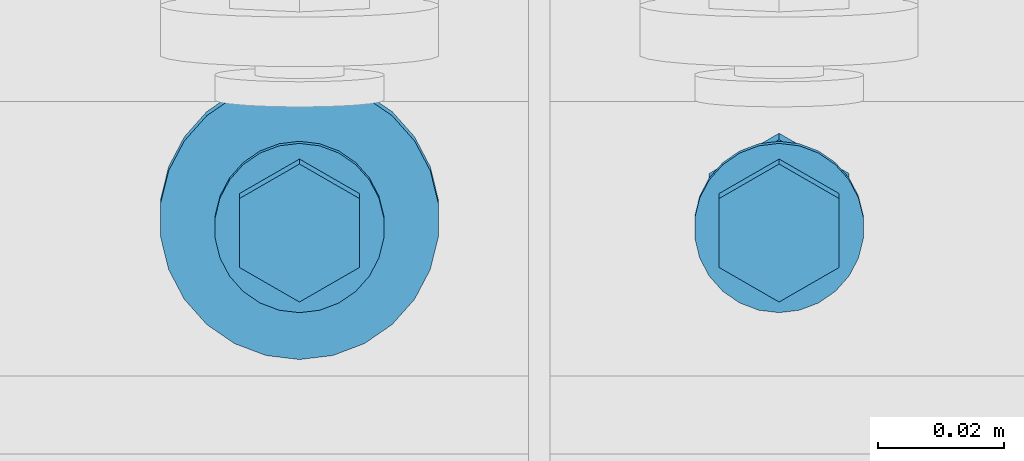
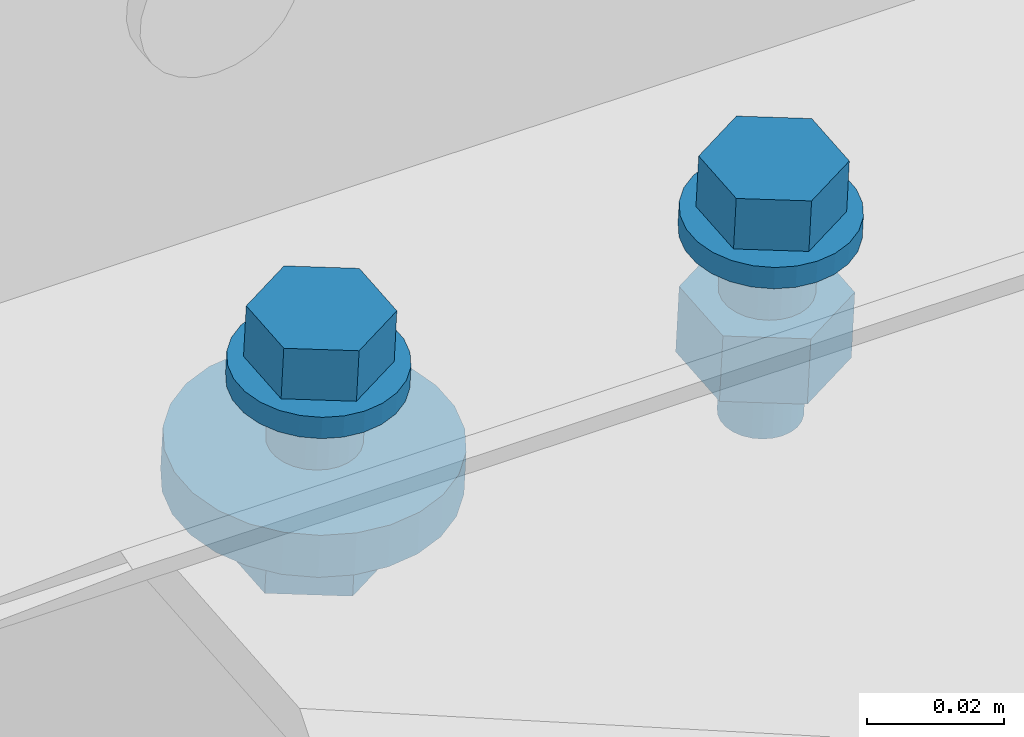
# One storey, part 124 of 185: 2 mechanical fasteners, 1 element without a shape of its own.
"""IFC2X3 building model written with IfcOpenShell, lengths in millimetres."""

import ifcopenshell
import ifcopenshell.guid

model = None  # the IFC model being written
_history = None  # IfcOwnerHistory: only IFC2X3 demands one
_inside = {}  # id of a spatial element -> (the spatial element, [elements in it])
_under = {}  # id of a project, library or spatial element -> (it, [spatial elements below it])
_declared = {}  # id of a project -> (the project, [libraries it declares])
_typed = {}  # id of a type object -> (the type object, [elements of that type])
_made_of = {}  # id of a material, layer set ... -> (it, [elements and type objects made of it])


def new_model(schema):
    """Start an empty IFC model of exactly this schema.

    Asked for "IFC4X3", IfcOpenShell would pick the latest addendum, in which some entities
    have other attributes; the version numbers below select the first issue.
    IFC2X3 requires an IfcOwnerHistory on every rooted entity: one is made here for all.
    """
    global model, _history
    if schema == "IFC4X3":
        model = ifcopenshell.file(schema_version=(4, 3, 0, 0))
    else:
        model = ifcopenshell.file(schema=schema)
    _inside.clear()
    _under.clear()
    _declared.clear()
    _typed.clear()
    _made_of.clear()
    _history = None
    if model.schema == "IFC2X3":
        org = make("IfcOrganization", Name="unknown")
        user = make(
            "IfcPersonAndOrganization",
            ThePerson=make("IfcPerson", FamilyName="unknown"),
            TheOrganization=org,
        )
        app = make(
            "IfcApplication",
            ApplicationDeveloper=org,
            Version="unknown",
            ApplicationFullName="unknown",
            ApplicationIdentifier="unknown",
        )
        _history = make(
            "IfcOwnerHistory",
            OwningUser=user,
            OwningApplication=app,
            ChangeAction="ADDED",
            CreationDate=0,
        )
    return model


def make(cls, **values):
    """One entity of the class cls with the attributes given. An attribute that is None is left unset."""
    return model.create_entity(
        cls, **{name: value for name, value in values.items() if value is not None}
    )


def rooted(cls, **values):
    """An entity with a GlobalId (a new one), such as an element, a storey or a relation."""
    return make(cls, GlobalId=ifcopenshell.guid.new(), OwnerHistory=_history, **values)


def si_unit(unit_type, name, prefix=None):
    """IfcSIUnit, for example si_unit("LENGTHUNIT", "METRE", prefix="MILLI")."""
    return make("IfcSIUnit", UnitType=unit_type, Prefix=prefix, Name=name)


def assignment(units):
    """IfcUnitAssignment: the units of a project."""
    return None if units is None else make("IfcUnitAssignment", Units=units)


def point(xyz):
    """IfcCartesianPoint."""
    return None if xyz is None else make("IfcCartesianPoint", Coordinates=xyz)


def direction(xyz):
    """IfcDirection."""
    return None if xyz is None else make("IfcDirection", DirectionRatios=xyz)


def frame(location, z_axis=None, x_axis=None):
    """IfcAxis2Placement3D, a coordinate frame: its origin and axes. An axis left out is left unset."""
    return make(
        "IfcAxis2Placement3D",
        Location=point(location),
        Axis=direction(z_axis),
        RefDirection=direction(x_axis),
    )


def frame_2d(location, x_axis=None):
    """IfcAxis2Placement2D, a coordinate frame in the plane: its origin and x axis."""
    return make(
        "IfcAxis2Placement2D", Location=point(location), RefDirection=direction(x_axis)
    )


def origin_with_axes():
    """The frame at (0, 0, 0) with the z axis (0, 0, 1) and the x axis (1, 0, 0) written out."""
    return frame((0.0, 0.0, 0.0), z_axis=(0.0, 0.0, 1.0), x_axis=(1.0, 0.0, 0.0))


def origin_2d_with_axis():
    """The frame at (0, 0) in the plane with the x axis (1, 0) written out."""
    return frame_2d((0.0, 0.0), x_axis=(1.0, 0.0))


def place(relative_to, where):
    """IfcLocalPlacement: puts the frame where relative to a parent placement (None: the world)."""
    return make(
        "IfcLocalPlacement", PlacementRelTo=relative_to, RelativePlacement=where
    )


def context(
    kind, dimensions, precision=None, world=None, true_north=None, identifier=None
):
    """IfcGeometricRepresentationContext, for example the 3D "Model" context."""
    return make(
        "IfcGeometricRepresentationContext",
        ContextIdentifier=identifier,
        ContextType=kind,
        CoordinateSpaceDimension=dimensions,
        Precision=precision,
        WorldCoordinateSystem=world,
        TrueNorth=true_north,
    )


def subcontext(parent, identifier, kind, view, scale=None):
    """IfcGeometricRepresentationSubContext, for example "Body" below "Model"."""
    return make(
        "IfcGeometricRepresentationSubContext",
        ContextIdentifier=identifier,
        ContextType=kind,
        ParentContext=parent,
        TargetScale=scale,
        TargetView=view,
    )


def project(units=None, contexts=None):
    """IfcProject with its units and contexts."""
    return rooted(
        "IfcProject",
        Name="project",
        RepresentationContexts=contexts,
        UnitsInContext=assignment(units),
    )


def spatial(cls, under=None, at=None, **own):
    """A site, building, storey or space (cls), placed at a placement, below another one or the project."""
    s = rooted(cls, ObjectPlacement=at, **own)
    if under is not None:
        _under.setdefault(under.id(), (under, []))[1].append(s)
    return s


def polyline(points):
    """IfcPolyline through the points."""
    return make("IfcPolyline", Points=[point(p) for p in points])


def profile(cls, at=None, kind="AREA", **sizes):
    """A parametric profile (cls). Its sizes go by their IFC names, for example OverallWidth=200.0."""
    return make(cls, ProfileType=kind, Position=at, **sizes)


def circle(**sizes):
    """IfcCircleProfileDef."""
    return profile("IfcCircleProfileDef", **sizes)


def outline(outer, holes=None, kind="AREA"):
    """IfcArbitraryClosedProfileDef: a profile drawn as a closed curve; with holes, ...WithVoids."""
    if holes is None:
        return make("IfcArbitraryClosedProfileDef", ProfileType=kind, OuterCurve=outer)
    return make(
        "IfcArbitraryProfileDefWithVoids",
        ProfileType=kind,
        OuterCurve=outer,
        InnerCurves=holes,
    )


def extrude(swept, where, along, depth):
    """IfcExtrudedAreaSolid: the profile swept, set in the frame where, extruded along a direction by depth."""
    return make(
        "IfcExtrudedAreaSolid",
        SweptArea=swept,
        Position=where,
        ExtrudedDirection=direction(along),
        Depth=depth,
    )


def shape(context_of_items, identifier, shape_type, items):
    """IfcShapeRepresentation: the items that make up one representation, for example the "Body"."""
    return make(
        "IfcShapeRepresentation",
        ContextOfItems=context_of_items,
        RepresentationIdentifier=identifier,
        RepresentationType=shape_type,
        Items=items,
    )


def source(mapping_origin, context_of_items, identifier, shape_type, items):
    """IfcRepresentationMap: a shape defined once, which mapped items show again and again."""
    return make(
        "IfcRepresentationMap",
        MappingOrigin=mapping_origin,
        MappedRepresentation=shape(context_of_items, identifier, shape_type, items),
    )


def transform(
    local_origin,
    x_axis=None,
    y_axis=None,
    z_axis=None,
    scale=None,
    scale2=None,
    scale3=None,
    uniform=True,
):
    """IfcCartesianTransformationOperator3D, or its non-uniform kind. x_axis, y_axis, z_axis: its Axis1, 2, 3."""
    if uniform:
        return make(
            "IfcCartesianTransformationOperator3D",
            Axis1=direction(x_axis),
            Axis2=direction(y_axis),
            LocalOrigin=point(local_origin),
            Scale=scale,
            Axis3=direction(z_axis),
        )
    return make(
        "IfcCartesianTransformationOperator3DnonUniform",
        Axis1=direction(x_axis),
        Axis2=direction(y_axis),
        LocalOrigin=point(local_origin),
        Scale=scale,
        Axis3=direction(z_axis),
        Scale2=scale2,
        Scale3=scale3,
    )


def mapped(mapping_source, mapping_target):
    """IfcMappedItem: shows the shape of a source again, moved by a transform."""
    return make(
        "IfcMappedItem", MappingSource=mapping_source, MappingTarget=mapping_target
    )


def material(Name=None, Category=None):
    """IfcMaterial."""
    return make("IfcMaterial", Name=Name, Category=Category)


def made_of(thing, what):
    """Note that an element or type object is made of a material, layer set ...; save() writes the relation."""
    if what is not None:
        _made_of.setdefault(what.id(), (what, []))[1].append(thing)
    return thing


def type_object(cls, material=None, **own):
    """A type object (cls), such as IfcWallType, which elements share."""
    return made_of(rooted(cls, **own), material)


def element(
    cls,
    number,
    at=None,
    inside=None,
    cuts=None,
    type_object=None,
    material=None,
    context=None,
    identifier="Body",
    shape_type=None,
    held_by="IfcProductDefinitionShape",
    body=None,
    shapes=None,
    **own,
):
    """One element of the class cls, such as IfcWall. Its Tag is "e" and its number.

    at: its placement. inside: the storey or other place that contains it. cuts: it is an
    opening in that element (IfcRelVoidsElement). A single representation is given by context,
    identifier, shape_type and body (its items); several are given by shapes. held_by: the class
    of the entity that holds the representations. save() writes the other relations.
    """
    e = rooted(cls, Tag="e%d" % number, ObjectPlacement=at, **own)
    if body is not None:
        shapes = [shape(context, identifier, shape_type, body)]
    if shapes is not None:
        e.Representation = make(held_by, Representations=shapes)
    if inside is not None:
        _inside.setdefault(inside.id(), (inside, []))[1].append(e)
    if cuts is not None:
        rooted(
            "IfcRelVoidsElement", RelatingBuildingElement=cuts, RelatedOpeningElement=e
        )
    if type_object is not None:
        _typed.setdefault(type_object.id(), (type_object, []))[1].append(e)
    return made_of(e, material)


def aggregate(whole, parts):
    """IfcRelAggregates: a whole, such as a stair, and the parts it consists of."""
    return rooted("IfcRelAggregates", RelatingObject=whole, RelatedObjects=parts)


def save(model, path):
    """Write the relations noted so far, then the file.

    IfcRelAggregates (storeys below a building ...), IfcRelContainedInSpatialStructure (elements
    in a storey), IfcRelDefinesByType, IfcRelAssociatesMaterial and IfcRelDeclares: one each for
    every whole, place, type object, material and project.
    """
    for whole, parts in _under.values():
        aggregate(whole, parts)
    for where, things in _inside.values():
        rooted(
            "IfcRelContainedInSpatialStructure",
            RelatedElements=things,
            RelatingStructure=where,
        )
    for kind, things in _typed.values():
        rooted("IfcRelDefinesByType", RelatedObjects=things, RelatingType=kind)
    for what, things in _made_of.values():
        rooted("IfcRelAssociatesMaterial", RelatedObjects=things, RelatingMaterial=what)
    for by, libraries in _declared.values():
        rooted("IfcRelDeclares", RelatingContext=by, RelatedDefinitions=libraries)
    model.write(path)


model = new_model("IFC2X3")

# Units and contexts
model_context = context("Model", 3, precision=1e-05, world=origin_with_axes())
body_context = subcontext(model_context, "Body", "Model", "MODEL_VIEW")
ifc_project = project(units=[si_unit("LENGTHUNIT", "METRE", prefix="MILLI"), si_unit("AREAUNIT", "SQUARE_METRE"), si_unit("VOLUMEUNIT", "CUBIC_METRE"), si_unit("MASSUNIT", "GRAM", prefix="KILO"), si_unit("TIMEUNIT", "SECOND"), si_unit("PLANEANGLEUNIT", "RADIAN"), si_unit("SOLIDANGLEUNIT", "STERADIAN"), si_unit("THERMODYNAMICTEMPERATUREUNIT", "DEGREE_CELSIUS"), si_unit("LUMINOUSINTENSITYUNIT", "LUMEN")], contexts=[model_context])

# Site, building, storey
site_placement = place(None, origin_with_axes())
site = spatial("IfcSite", under=ifc_project, at=site_placement, Name="Undefined", CompositionType="ELEMENT")
building_placement = place(site_placement, origin_with_axes())
building = spatial("IfcBuilding", under=site, at=building_placement, Name="Undefined", CompositionType="ELEMENT")
storey_placement = place(building_placement, origin_with_axes())
storey = spatial("IfcBuildingStorey", under=building, at=storey_placement, Name="Undefined", CompositionType="ELEMENT", Elevation=0.0)

# Assembly, mechanical fasteners
assembly_placement = place(storey_placement, origin_with_axes())
assembly = element("IfcElementAssembly", 1, at=assembly_placement, inside=storey, Name="Steel Assembly", AssemblyPlace="NOTDEFINED", PredefinedType="RIGID_FRAME")
ifc_material = material(Name="Undefined")
discrete_accessory_type = type_object("IfcDiscreteAccessoryType", Name="Bolt assembly")
shared_shape_1 = source(origin_with_axes(), body_context, "Body", "SweptSolid", [
    extrude(circle(Radius=7.14374971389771, at=origin_2d_with_axis()), frame((0.0, -0.0238014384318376, 0.0), z_axis=(0.0, 1.0, 0.0), x_axis=(1.0, 0.0, 0.0)), (0.0, 0.0, 1.0), 8.0),
    extrude(circle(Radius=7.14374971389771, at=origin_2d_with_axis()), frame((0.0, -3.18000030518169, 0.0), z_axis=(0.0, 1.0, 0.0), x_axis=(1.0, 0.0, 0.0)), (0.0, 0.0, 1.0), 3.2),
    extrude(circle(Radius=7.14374971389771, at=origin_2d_with_axis()), frame((0.0, -3.08000006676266, 0.0), z_axis=(0.0, 1.0, 0.0), x_axis=(1.0, 0.0, 0.0)), (0.0, 0.0, 1.0), 3.2),
    extrude(outline(polyline([(10.9985221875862, 0.0), (5.4992610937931, 9.52499961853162), (-5.4992610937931, 9.52499961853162), (-10.9985221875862, 0.0), (-5.4992610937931, -9.52499961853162), (5.4992610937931, -9.52499961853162), (10.9985221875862, 0.0)])), frame((0.0, -16.6737496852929, 0.0), z_axis=(0.0, 1.0, 0.0), x_axis=(1.0, 0.0, 0.0)), (0.0, 0.0, 1.0), 9.5),
    extrude(circle(Radius=6.34999990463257, at=origin_2d_with_axis()), frame((0.0, -7.14875006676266, 0.0), z_axis=(0.0, 1.0, 0.0), x_axis=(1.0, 0.0, 0.0)), (0.0, 0.0, 1.0), 38.1),
    extrude(circle(Radius=13.4937496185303, at=origin_2d_with_axis()), frame((0.0, -7.14875006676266, 0.0), z_axis=(0.0, 1.0, 0.0), x_axis=(1.0, 0.0, 0.0)), (0.0, 0.0, 1.0), 4.0),
    extrude(circle(Radius=22.2250003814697, at=origin_2d_with_axis()), frame((0.0, 7.95019856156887, 0.0), z_axis=(0.0, 1.0, 0.0), x_axis=(1.0, 0.0, 0.0)), (0.0, 0.0, 1.0), 7.9),
    extrude(outline(polyline([(12.8316099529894, 0.0), (6.4158049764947, 11.1125001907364), (-6.4158049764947, 11.1125001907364), (-12.8316099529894, 0.0), (-6.4158049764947, -11.1125001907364), (6.4158049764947, -11.1125001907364), (12.8316099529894, 0.0)])), frame((0.0, 15.8876985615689, 0.0), z_axis=(0.0, 1.0, 0.0), x_axis=(1.0, 0.0, 0.0)), (0.0, 0.0, 1.0), 12.3),
])
mechanical_fastener_1_placement = place(assembly_placement, frame((7200.9, 8083.48104764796, 6565.71908714), z_axis=(1.0, 0.0, 0.0), x_axis=(0.0, -0.996545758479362, -0.0830454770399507)))
mechanical_fastener_1 = element("IfcMechanicalFastener", 2, at=mechanical_fastener_1_placement, type_object=discrete_accessory_type, material=ifc_material, Name="Bolt assembly", NominalDiameter=12.6999998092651, NominalLength=38.0999984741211, context=body_context, shape_type="MappedRepresentation", body=[
    mapped(shared_shape_1, transform((0.0, 0.0, 0.0))),
])
shared_shape_2 = source(origin_with_axes(), body_context, "Body", "SweptSolid", [
    extrude(circle(Radius=7.14374971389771, at=origin_2d_with_axis()), frame((0.0, -0.0238014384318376, 0.0), z_axis=(0.0, 1.0, 0.0), x_axis=(1.0, 0.0, 0.0)), (0.0, 0.0, 1.0), 8.0),
    extrude(circle(Radius=7.14374971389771, at=origin_2d_with_axis()), frame((0.0, -3.18000030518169, 0.0), z_axis=(0.0, 1.0, 0.0), x_axis=(1.0, 0.0, 0.0)), (0.0, 0.0, 1.0), 3.2),
    extrude(circle(Radius=7.14374971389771, at=origin_2d_with_axis()), frame((0.0, -3.08000006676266, 0.0), z_axis=(0.0, 1.0, 0.0), x_axis=(1.0, 0.0, 0.0)), (0.0, 0.0, 1.0), 3.2),
    extrude(outline(polyline([(10.9985221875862, 0.0), (5.4992610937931, 9.52499961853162), (-5.4992610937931, 9.52499961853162), (-10.9985221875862, 0.0), (-5.4992610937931, -9.52499961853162), (5.4992610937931, -9.52499961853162), (10.9985221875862, 0.0)])), frame((0.0, -16.6737496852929, 0.0), z_axis=(0.0, 1.0, 0.0), x_axis=(1.0, 0.0, 0.0)), (0.0, 0.0, 1.0), 9.5),
    extrude(circle(Radius=6.34999990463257, at=origin_2d_with_axis()), frame((0.0, -7.14875006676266, 0.0), z_axis=(0.0, 1.0, 0.0), x_axis=(1.0, 0.0, 0.0)), (0.0, 0.0, 1.0), 38.1),
    extrude(circle(Radius=13.4937496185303, at=origin_2d_with_axis()), frame((0.0, -7.14875006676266, 0.0), z_axis=(0.0, 1.0, 0.0), x_axis=(1.0, 0.0, 0.0)), (0.0, 0.0, 1.0), 4.0),
    extrude(outline(polyline([(12.8316099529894, 0.0), (6.4158049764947, 11.1125001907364), (-6.4158049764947, 11.1125001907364), (-12.8316099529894, 0.0), (-6.4158049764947, -11.1125001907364), (6.4158049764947, -11.1125001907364), (12.8316099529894, 0.0)])), frame((0.0, 7.95019856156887, 0.0), z_axis=(0.0, 1.0, 0.0), x_axis=(1.0, 0.0, 0.0)), (0.0, 0.0, 1.0), 12.3),
])
mechanical_fastener_2_placement = place(assembly_placement, frame((7277.1, 8083.48104764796, 6565.71908714), z_axis=(1.0, 0.0, 0.0), x_axis=(0.0, -0.996545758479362, -0.0830454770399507)))
mechanical_fastener_2 = element("IfcMechanicalFastener", 3, at=mechanical_fastener_2_placement, type_object=discrete_accessory_type, material=ifc_material, Name="Bolt assembly", NominalDiameter=12.6999998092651, NominalLength=38.0999984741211, context=body_context, shape_type="MappedRepresentation", body=[
    mapped(shared_shape_2, transform((0.0, 0.0, 0.0))),
])
aggregate(assembly, [mechanical_fastener_1, mechanical_fastener_2])

save(model, "model.ifc")
